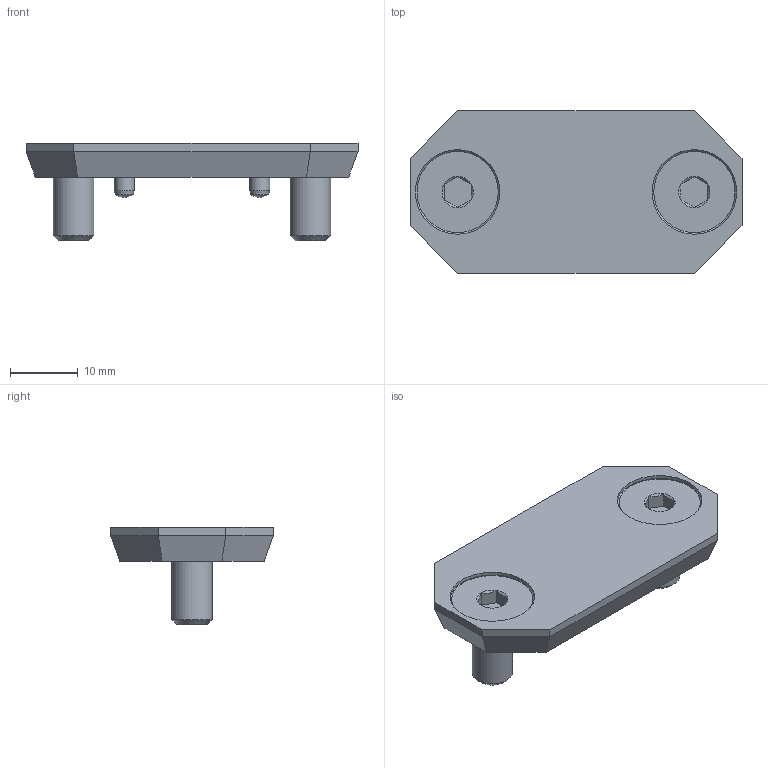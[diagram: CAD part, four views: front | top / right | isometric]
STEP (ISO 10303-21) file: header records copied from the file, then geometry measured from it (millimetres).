
FILE_DESCRIPTION (( 'STEP AP214' ), '1' );
FILE_NAME ('AS-C96_WEBSITE.STEP', '2025-08-11T09:07:10', ( '' ), ( '' ), 'SwSTEP 2.0', 'SolidWorks 2024', '' );
FILE_SCHEMA (( 'AUTOMOTIVE_DESIGN' ));
Length unit declared in the file: inch
Products named in the file (4): M3X6.DP_M3X6.DP; AS-C96_WEBSITE; AS-C96-1_AS-C96-1; M6X14MM.FHCS_91263A888
Assembly tree (5 placements, depth 2):
  AS-C96_WEBSITE
    AS-C96-1_AS-C96-1
    M6X14MM.FHCS_91263A888  x2
    M3X6.DP_M3X6.DP  x2
Bounding box: 49.09 x 24.09 x 14.42 mm (x, y, z)
Volume: 5455.5 mm3; surface area: 3880.4 mm2
Topology: 5 solids, 5 shells, 76 faces, 144 edges, 82 vertices
Faces by surface type: plane 38, cone 22, cylinder 12, sphere 4
Full cylindrical faces by diameter (mm): 3 x2, 3.023 x2, 6 x2, 6.5 x2, 12 x2, 12.5 x2
Entity records: 1413 total; most frequent: CARTESIAN_POINT 264, DIRECTION 226, ORIENTED_EDGE 170, AXIS2_PLACEMENT_3D 87, EDGE_CURVE 85, EDGE_LOOP 74, FACE_OUTER_BOUND 61, VERTEX_POINT 57
